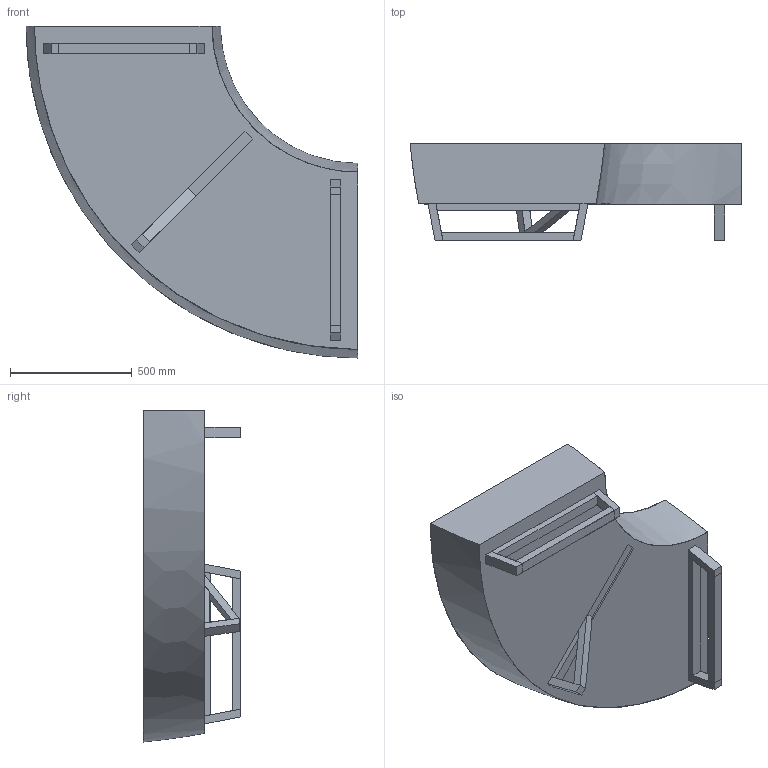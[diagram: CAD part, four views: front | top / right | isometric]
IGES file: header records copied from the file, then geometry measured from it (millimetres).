
Start section: SolidWorks IGES file using analytic representation for surfaces
Global section: file name: P:\3D CAD BLOCKS\us\90 DEGREE SEAT WITHOUT BACK\us - 90 DEGREE SEAT WITHOUT BACK.IGS; native system: SolidWorks 2012; preprocessor: SolidWorks 2012; author: adam; date: 140220.190528; units: millimetre
Bounding box: 1365 x 400 x 1365 mm (x, y, z)
Surface area: 4710071.3 mm2 (no closed solid volume)
Topology: 0 solids, 0 shells, 161 faces, 1020 edges, 1020 vertices
Faces by surface type: bspline 145, revolution 16
